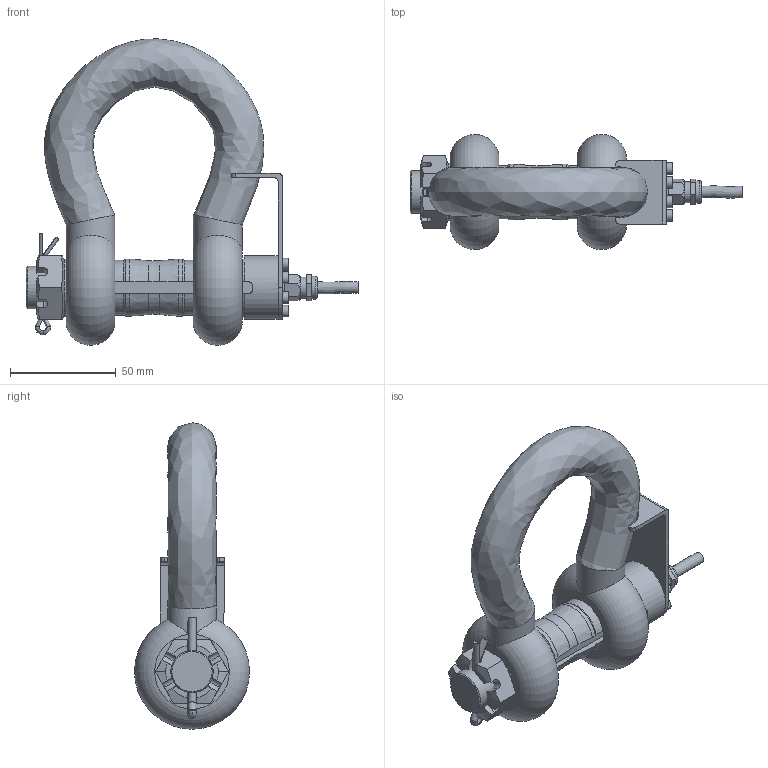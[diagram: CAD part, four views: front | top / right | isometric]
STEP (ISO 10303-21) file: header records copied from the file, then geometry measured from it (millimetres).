
FILE_DESCRIPTION(/* description */ ('Alibre Inc.'),/* implementation_level */ '2;1');
FILE_NAME(/* name */ 'export0',/* time_stamp */ '2012-07-19T11:06:59+02:00',/* author */ (''),/* organization */ (''),/* preprocessor_version */ 'ST-DEVELOPER v10',/* originating_system */ 'Alibre',/* authorisation */ '');
FILE_SCHEMA (('CONFIG_CONTROL_DESIGN'));
Length unit declared in the file: centimetre
Products named in the file (12): ID_1; ID_2; ID_3; ID_4; ID_5; ID_6
Bounding box: 156.73 x 54.36 x 144.66 mm (x, y, z)
Volume: 221252.5 mm3; surface area: 55419.6 mm2
Topology: 16 solids, 16 shells, 384 faces, 905 edges, 572 vertices
Faces by surface type: plane 170, cylinder 139, cone 44, torus 27, bspline 2, sphere 2
Full cylindrical faces by diameter (mm): 2.459 x8, 3 x8, 3.2 x8, 4.5 x1, 5.5 x9, 6.917 x1, 8 x1, 10 x1, 10.8 x1, 19 x1, 20 x2, 23 x2, 27 x3, 30 x1
Entity records: 11144 total; most frequent: CARTESIAN_POINT 4371, ORIENTED_EDGE 1100, DIRECTION 1037, EDGE_CURVE 550, AXIS2_PLACEMENT_3D 464, VERTEX_POINT 389, FACE_BOUND 337, EDGE_LOOP 328
